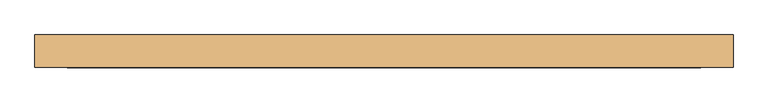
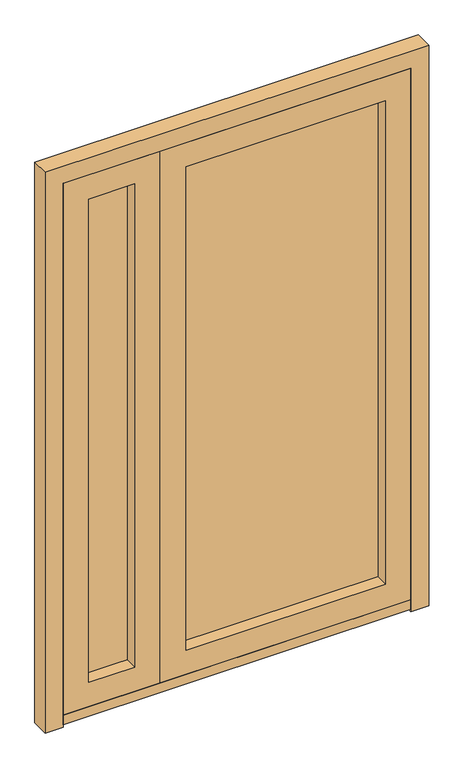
"""IFC4 building model written with IfcOpenShell, lengths in millimetres: door geometry, Dr_Дверь_v2.1 : ДВСТД Дп Ос 23-15 EIS60."""

from ifc_helpers import new_model, si_unit, frame, origin, place, context, project, spatial, polyline, outline, extrude, source, transform, mapped, element, save


def door_4950d3f7(model_context):
    return source(origin(), model_context, "Body", "SweptSolid", [
        extrude(outline(polyline([(-36.0, -555.0), (2210.0, -555.0), (2210.0, 805.0), (-36.0, 805.0), (-36.0, 875.0), (2280.0, 875.0), (2280.0, -625.0), (-36.0, -625.0), (-36.0, -555.0)])), frame((0.0, -125.0, 0.0), z_axis=(0.0, 1.0, 0.0), x_axis=(0.0, 0.0, 1.0)), (0.0, 0.0, 1.0), 70.0),
        extrude(outline(polyline([(805.0, -125.0), (-555.0, -125.0), (-555.0, -55.0), (805.0, -55.0), (805.0, -125.0)])), frame((0.0, 0.0, -26.0), z_axis=(0.0, 0.0, 1.0), x_axis=(1.0, 0.0, 0.0)), (0.0, 0.0, 1.0), 40.0),
        extrude(outline(polyline([(2210.0, 805.0), (2210.0, -175.0005417), (14.0, -175.0005417), (14.0, 805.0), (2210.0, 805.0)]), holes=[polyline([(114.0, 705.0), (114.0, -75.0), (2110.0, -75.0), (2110.0, 705.0), (114.0, 705.0)])]), frame((0.0, -125.0, 0.0), z_axis=(0.0, 1.0, 0.0), x_axis=(0.0, 0.0, 1.0)), (0.0, 0.0, 1.0), 70.0),
        extrude(outline(polyline([(-75.0, -75.0), (-75.0, -70.0), (705.0, -70.0), (705.0, -75.0), (-75.0, -75.0)])), frame((0.0, 0.0, 114.0), z_axis=(0.0, 0.0, 1.0), x_axis=(1.0, 0.0, 0.0)), (0.0, 0.0, 1.0), 1996.0),
        extrude(outline(polyline([(2210.0, -555.0), (14.0, -555.0), (14.0, -174.9994583), (2210.0, -174.9994583), (2210.0, -555.0)]), holes=[polyline([(114.0, -455.0), (2110.0, -455.0), (2110.0, -275.0), (114.0, -275.0), (114.0, -455.0)])]), frame((0.0, -125.0, 0.0), z_axis=(0.0, 1.0, 0.0), x_axis=(0.0, 0.0, 1.0)), (0.0, 0.0, 1.0), 70.0),
        extrude(outline(polyline([(-275.0, -75.0), (-455.0, -75.0), (-455.0, -70.0), (-275.0, -70.0), (-275.0, -75.0)])), frame((0.0, 0.0, 114.0), z_axis=(0.0, 0.0, 1.0), x_axis=(1.0, 0.0, 0.0)), (0.0, 0.0, 1.0), 1996.0),
    ])


if __name__ == "__main__":
    model = new_model("IFC4")
    model_context = context("Model", 3, world=origin())
    ifc_project = project(units=[si_unit("LENGTHUNIT", "METRE", prefix="MILLI")], contexts=[model_context])
    site = spatial("IfcSite", under=ifc_project)
    building = spatial("IfcBuilding", under=site)
    placement = place(None, origin())
    door_shape = door_4950d3f7(model_context)
    element("IfcDoor", 1, ObjectType="Dr_Дверь_v2.1 : ДВСТД Дп Ос 23-15 EIS60", at=placement, inside=building, context=model_context, shape_type="MappedRepresentation", body=[
        mapped(door_shape, transform((0.0, 0.0, 0.0), x_axis=(1.0, 0.0, 0.0), y_axis=(0.0, 1.0, 0.0), z_axis=(0.0, 0.0, 1.0))),
    ])
    save(model, "model.ifc")
